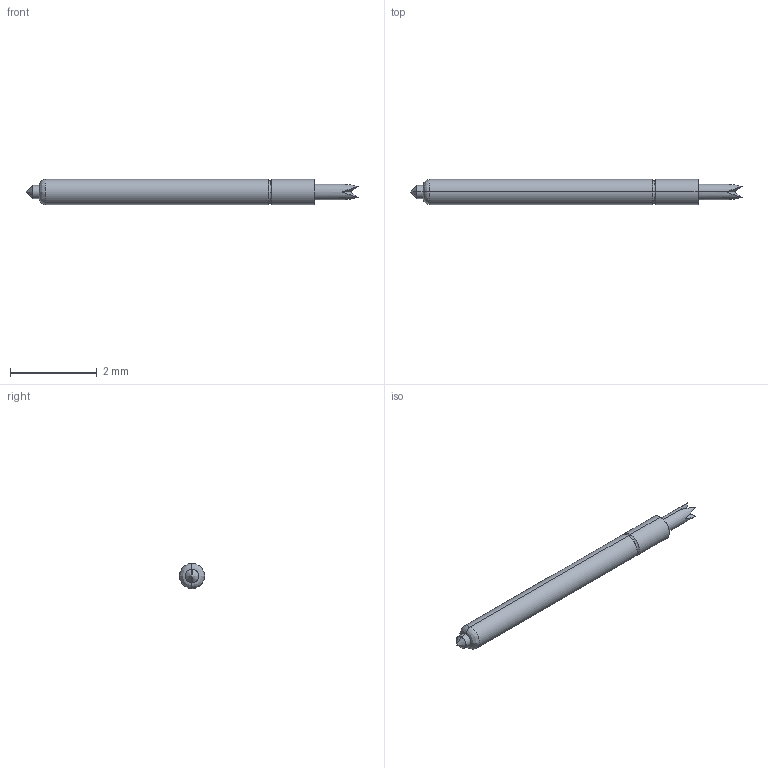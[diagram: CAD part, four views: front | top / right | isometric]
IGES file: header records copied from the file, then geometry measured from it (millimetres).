
Start section: SolidWorks IGES file using analytic representation for surfaces
Global section: file name: Z:\probe solid model mockups\Solidworks models\IGES Files\CSP8-25 IGES files\CSP8-25LB Full.IGS; native system: SolidWorks 2006 by SolidWorks Corporation; preprocessor: SolidWorks 2006 by SolidWorks Corporation; author: tsakatani; date: 080108.153737; units: inch
Bounding box: 7.67 x 0.58 x 0.58 mm (x, y, z)
Surface area: 13.4 mm2 (no closed solid volume)
Topology: 0 solids, 0 shells, 25 faces, 142 edges, 140 vertices
Faces by surface type: bspline 15, revolution 10
